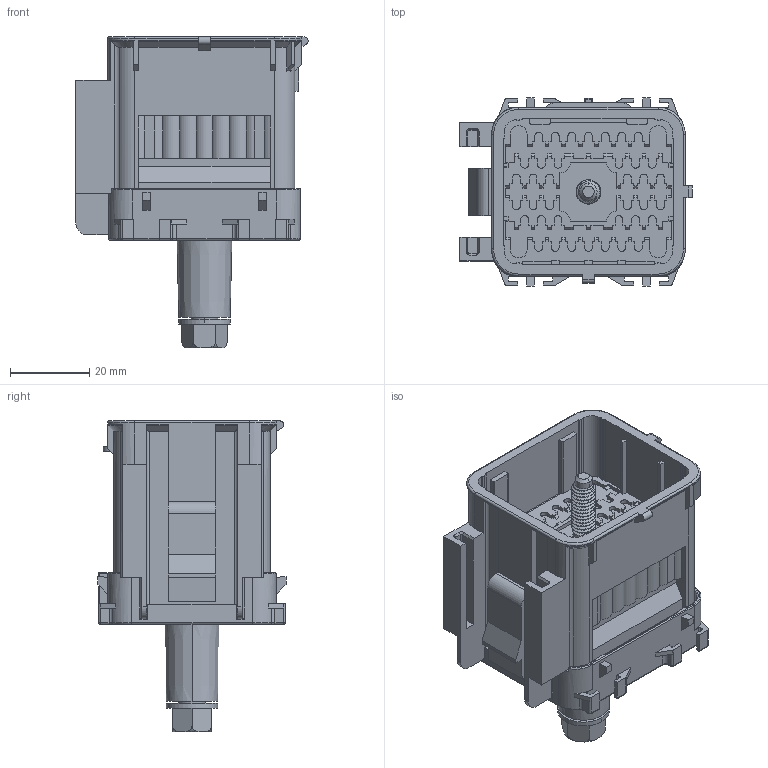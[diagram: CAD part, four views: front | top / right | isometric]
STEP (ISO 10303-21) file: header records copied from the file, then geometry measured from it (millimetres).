
FILE_DESCRIPTION((''),'2;1');
FILE_NAME('UP16_28-42P','2018-06-19T',('workeradm'),('TE Connectivity Ltd.'),'CREO PARAMETRIC BY PTC INC, 2016050','CREO PARAMETRIC BY PTC INC, 2016050','');
FILE_SCHEMA(('AUTOMOTIVE_DESIGN { 1 0 10303 214 1 1 1 1 }'));
Products named in the file (1): C-1599027-1
Bounding box: 58.65 x 47.5 x 78.75 mm (x, y, z)
Volume: 69431.7 mm3; surface area: 27270.3 mm2
Topology: 2 solids, 2 shells, 2027 faces, 5672 edges, 3729 vertices
Faces by surface type: plane 1598, cylinder 339, torus 50, bspline 22, cone 16, sphere 2
Entity records: 67652 total; most frequent: CARTESIAN_POINT 15013, ORIENTED_EDGE 11336, DIRECTION 10257, EDGE_CURVE 5668, VECTOR 4805, LINE 4805, VERTEX_POINT 3727, AXIS2_PLACEMENT_3D 2726
